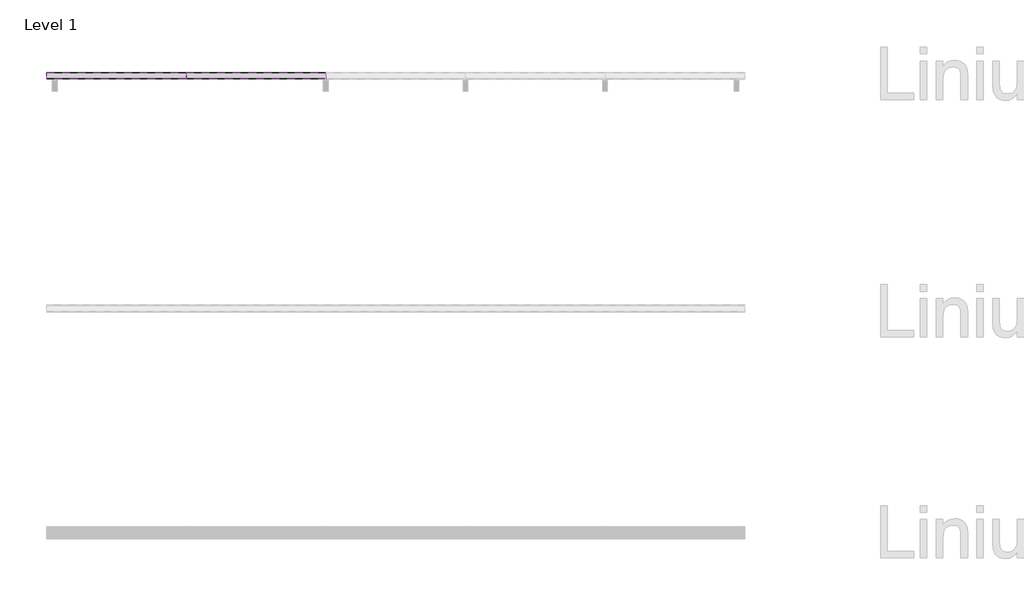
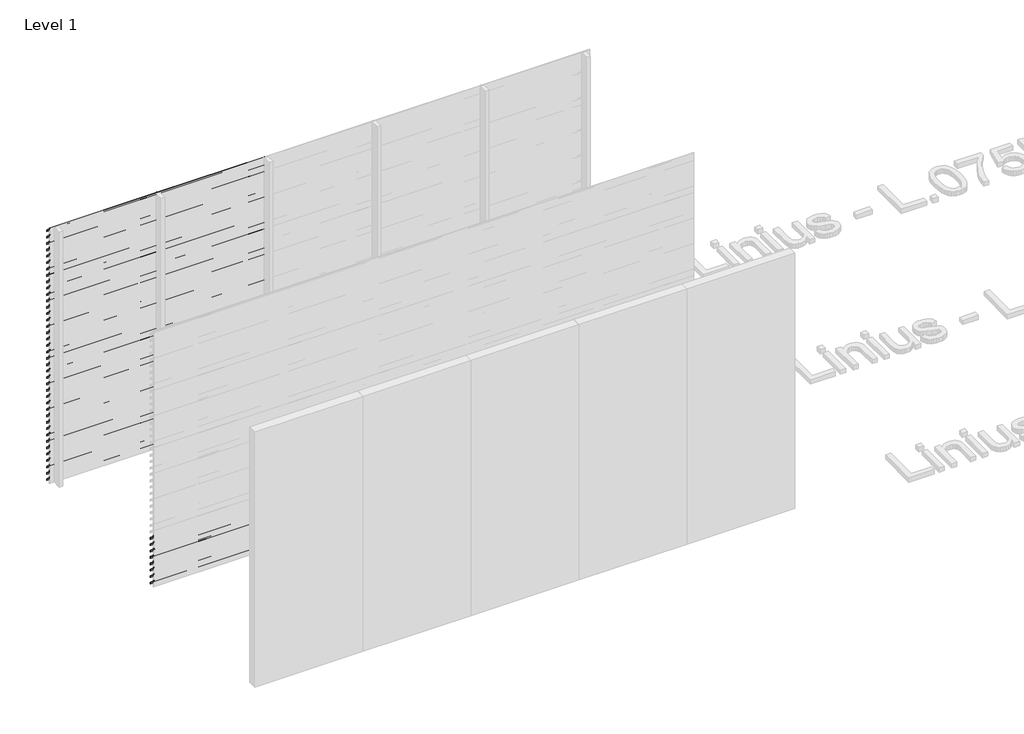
# One storey, part 21 of 55: 85 proxies.
"""IFC4 building model written with IfcOpenShell, lengths in millimetres."""

from ifc_helpers import new_model, si_unit, frame, origin, place, context, project, spatial, polyline, outline, extrude, element, save

model = new_model("IFC4")

# Units and contexts
model_context = context("Model", 3, world=origin())
ifc_project = project(units=[si_unit("LENGTHUNIT", "METRE", prefix="MILLI")], contexts=[model_context])

# Site, building, storey
site = spatial("IfcSite", under=ifc_project)
building = spatial("IfcBuilding", under=site)
storey = spatial("IfcBuildingStorey", under=building, Name="Level 1", Elevation=0.0)

# Proxies
placement = place(None, origin())
element("IfcBuildingElementProxy", 1, Name="Wall Sweeps", at=placement, inside=storey, context=model_context, shape_type="SweptSolid", body=[
    extrude(outline(polyline([(29081.0540136, 2943.5), (29081.0540136, 2923.5), (29079.8040136, 2924.2216933), (29079.8040136, 2942.7872415), (29026.0540136, 2980.3158044), (29026.0540136, 3000.0), (29027.3040136, 3000.0), (29027.3040136, 2981.0285629), (29081.0540136, 2943.5)])), frame((466.6208097, 0.0, 0.0), z_axis=(1.0, 0.0, 0.0), x_axis=(0.0, 1.0, 0.0)), (0.0, 0.0, 1.0), 1200.0000002),
])
element("IfcBuildingElementProxy", 2, Name="Wall Sweeps", at=placement, inside=storey, context=model_context, shape_type="SweptSolid", body=[
    extrude(outline(polyline([(29081.0540136, 2868.5), (29081.0540136, 2848.5), (29079.8040136, 2849.2216933), (29079.8040136, 2867.7872415), (29026.0540136, 2905.3158044), (29026.0540136, 2925.0), (29027.3040136, 2925.0), (29027.3040136, 2906.0285629), (29081.0540136, 2868.5)])), frame((466.6208097, 0.0, 0.0), z_axis=(1.0, 0.0, 0.0), x_axis=(0.0, 1.0, 0.0)), (0.0, 0.0, 1.0), 1200.0000002),
])
element("IfcBuildingElementProxy", 3, Name="Wall Sweeps", at=placement, inside=storey, context=model_context, shape_type="SweptSolid", body=[
    extrude(outline(polyline([(29081.0540136, 2793.5), (29081.0540136, 2773.5), (29079.8040136, 2774.2216933), (29079.8040136, 2792.7872415), (29026.0540136, 2830.3158044), (29026.0540136, 2850.0), (29027.3040136, 2850.0), (29027.3040136, 2831.0285629), (29081.0540136, 2793.5)])), frame((466.6208097, 0.0, 0.0), z_axis=(1.0, 0.0, 0.0), x_axis=(0.0, 1.0, 0.0)), (0.0, 0.0, 1.0), 1200.0000002),
])
element("IfcBuildingElementProxy", 4, Name="Wall Sweeps", at=placement, inside=storey, context=model_context, shape_type="SweptSolid", body=[
    extrude(outline(polyline([(29081.0540136, 2718.5), (29081.0540136, 2698.5), (29079.8040136, 2699.2216933), (29079.8040136, 2717.7872415), (29026.0540136, 2755.3158044), (29026.0540136, 2775.0), (29027.3040136, 2775.0), (29027.3040136, 2756.0285629), (29081.0540136, 2718.5)])), frame((466.6208097, 0.0, 0.0), z_axis=(1.0, 0.0, 0.0), x_axis=(0.0, 1.0, 0.0)), (0.0, 0.0, 1.0), 1200.0000002),
])
element("IfcBuildingElementProxy", 5, Name="Wall Sweeps", at=placement, inside=storey, context=model_context, shape_type="SweptSolid", body=[
    extrude(outline(polyline([(29081.0540136, 2643.5), (29081.0540136, 2623.5), (29079.8040136, 2624.2216933), (29079.8040136, 2642.7872415), (29026.0540136, 2680.3158044), (29026.0540136, 2700.0), (29027.3040136, 2700.0), (29027.3040136, 2681.0285629), (29081.0540136, 2643.5)])), frame((466.6208097, 0.0, 0.0), z_axis=(1.0, 0.0, 0.0), x_axis=(0.0, 1.0, 0.0)), (0.0, 0.0, 1.0), 1200.0000002),
])
element("IfcBuildingElementProxy", 6, Name="Wall Sweeps", at=placement, inside=storey, context=model_context, shape_type="SweptSolid", body=[
    extrude(outline(polyline([(29081.0540136, 2568.5), (29081.0540136, 2548.5), (29079.8040136, 2549.2216933), (29079.8040136, 2567.7872415), (29026.0540136, 2605.3158044), (29026.0540136, 2625.0), (29027.3040136, 2625.0), (29027.3040136, 2606.0285629), (29081.0540136, 2568.5)])), frame((466.6208097, 0.0, 0.0), z_axis=(1.0, 0.0, 0.0), x_axis=(0.0, 1.0, 0.0)), (0.0, 0.0, 1.0), 1200.0000002),
])
element("IfcBuildingElementProxy", 7, Name="Wall Sweeps", at=placement, inside=storey, context=model_context, shape_type="SweptSolid", body=[
    extrude(outline(polyline([(29081.0540136, 2493.5), (29081.0540136, 2473.5), (29079.8040136, 2474.2216933), (29079.8040136, 2492.7872415), (29026.0540136, 2530.3158044), (29026.0540136, 2550.0), (29027.3040136, 2550.0), (29027.3040136, 2531.0285629), (29081.0540136, 2493.5)])), frame((466.6208097, 0.0, 0.0), z_axis=(1.0, 0.0, 0.0), x_axis=(0.0, 1.0, 0.0)), (0.0, 0.0, 1.0), 1200.0000002),
])
element("IfcBuildingElementProxy", 8, Name="Wall Sweeps", at=placement, inside=storey, context=model_context, shape_type="SweptSolid", body=[
    extrude(outline(polyline([(29081.0540136, 2418.5), (29081.0540136, 2398.5), (29079.8040136, 2399.2216933), (29079.8040136, 2417.7872415), (29026.0540136, 2455.3158044), (29026.0540136, 2475.0), (29027.3040136, 2475.0), (29027.3040136, 2456.0285629), (29081.0540136, 2418.5)])), frame((466.6208097, 0.0, 0.0), z_axis=(1.0, 0.0, 0.0), x_axis=(0.0, 1.0, 0.0)), (0.0, 0.0, 1.0), 1200.0000002),
])
element("IfcBuildingElementProxy", 9, Name="Wall Sweeps", at=placement, inside=storey, context=model_context, shape_type="SweptSolid", body=[
    extrude(outline(polyline([(29081.0540136, 2343.5), (29081.0540136, 2323.5), (29079.8040136, 2324.2216933), (29079.8040136, 2342.7872415), (29026.0540136, 2380.3158044), (29026.0540136, 2400.0), (29027.3040136, 2400.0), (29027.3040136, 2381.0285629), (29081.0540136, 2343.5)])), frame((466.6208097, 0.0, 0.0), z_axis=(1.0, 0.0, 0.0), x_axis=(0.0, 1.0, 0.0)), (0.0, 0.0, 1.0), 1200.0000002),
])
element("IfcBuildingElementProxy", 10, Name="Wall Sweeps", at=placement, inside=storey, context=model_context, shape_type="SweptSolid", body=[
    extrude(outline(polyline([(29081.0540136, 2268.5), (29081.0540136, 2248.5), (29079.8040136, 2249.2216933), (29079.8040136, 2267.7872415), (29026.0540136, 2305.3158044), (29026.0540136, 2325.0), (29027.3040136, 2325.0), (29027.3040136, 2306.0285629), (29081.0540136, 2268.5)])), frame((466.6208097, 0.0, 0.0), z_axis=(1.0, 0.0, 0.0), x_axis=(0.0, 1.0, 0.0)), (0.0, 0.0, 1.0), 1200.0000002),
])
element("IfcBuildingElementProxy", 11, Name="Wall Sweeps", at=placement, inside=storey, context=model_context, shape_type="SweptSolid", body=[
    extrude(outline(polyline([(29081.0540136, 2193.5), (29081.0540136, 2173.5), (29079.8040136, 2174.2216933), (29079.8040136, 2192.7872415), (29026.0540136, 2230.3158044), (29026.0540136, 2250.0), (29027.3040136, 2250.0), (29027.3040136, 2231.0285629), (29081.0540136, 2193.5)])), frame((466.6208097, 0.0, 0.0), z_axis=(1.0, 0.0, 0.0), x_axis=(0.0, 1.0, 0.0)), (0.0, 0.0, 1.0), 1200.0000002),
])
element("IfcBuildingElementProxy", 12, Name="Wall Sweeps", at=placement, inside=storey, context=model_context, shape_type="SweptSolid", body=[
    extrude(outline(polyline([(29081.0540136, 2118.5), (29081.0540136, 2098.5), (29079.8040136, 2099.2216933), (29079.8040136, 2117.7872415), (29026.0540136, 2155.3158044), (29026.0540136, 2175.0), (29027.3040136, 2175.0), (29027.3040136, 2156.0285629), (29081.0540136, 2118.5)])), frame((466.6208097, 0.0, 0.0), z_axis=(1.0, 0.0, 0.0), x_axis=(0.0, 1.0, 0.0)), (0.0, 0.0, 1.0), 1200.0000002),
])
element("IfcBuildingElementProxy", 13, Name="Wall Sweeps", at=placement, inside=storey, context=model_context, shape_type="SweptSolid", body=[
    extrude(outline(polyline([(29081.0540136, 2043.5), (29081.0540136, 2023.5), (29079.8040136, 2024.2216933), (29079.8040136, 2042.7872415), (29026.0540136, 2080.3158044), (29026.0540136, 2100.0), (29027.3040136, 2100.0), (29027.3040136, 2081.0285629), (29081.0540136, 2043.5)])), frame((466.6208097, 0.0, 0.0), z_axis=(1.0, 0.0, 0.0), x_axis=(0.0, 1.0, 0.0)), (0.0, 0.0, 1.0), 1200.0000002),
])
element("IfcBuildingElementProxy", 14, Name="Wall Sweeps", at=placement, inside=storey, context=model_context, shape_type="SweptSolid", body=[
    extrude(outline(polyline([(29081.0540136, 1968.5), (29081.0540136, 1948.5), (29079.8040136, 1949.2216933), (29079.8040136, 1967.7872415), (29026.0540136, 2005.3158044), (29026.0540136, 2025.0), (29027.3040136, 2025.0), (29027.3040136, 2006.0285629), (29081.0540136, 1968.5)])), frame((466.6208097, 0.0, 0.0), z_axis=(1.0, 0.0, 0.0), x_axis=(0.0, 1.0, 0.0)), (0.0, 0.0, 1.0), 1200.0000002),
])
element("IfcBuildingElementProxy", 15, Name="Wall Sweeps", at=placement, inside=storey, context=model_context, shape_type="SweptSolid", body=[
    extrude(outline(polyline([(29081.0540136, 1893.5), (29081.0540136, 1873.5), (29079.8040136, 1874.2216933), (29079.8040136, 1892.7872415), (29026.0540136, 1930.3158044), (29026.0540136, 1950.0), (29027.3040136, 1950.0), (29027.3040136, 1931.0285629), (29081.0540136, 1893.5)])), frame((466.6208097, 0.0, 0.0), z_axis=(1.0, 0.0, 0.0), x_axis=(0.0, 1.0, 0.0)), (0.0, 0.0, 1.0), 1200.0000002),
])
element("IfcBuildingElementProxy", 16, Name="Wall Sweeps", at=placement, inside=storey, context=model_context, shape_type="SweptSolid", body=[
    extrude(outline(polyline([(29081.0540136, 1818.5), (29081.0540136, 1798.5), (29079.8040136, 1799.2216933), (29079.8040136, 1817.7872415), (29026.0540136, 1855.3158044), (29026.0540136, 1875.0), (29027.3040136, 1875.0), (29027.3040136, 1856.0285629), (29081.0540136, 1818.5)])), frame((466.6208097, 0.0, 0.0), z_axis=(1.0, 0.0, 0.0), x_axis=(0.0, 1.0, 0.0)), (0.0, 0.0, 1.0), 1200.0000002),
])
element("IfcBuildingElementProxy", 17, Name="Wall Sweeps", at=placement, inside=storey, context=model_context, shape_type="SweptSolid", body=[
    extrude(outline(polyline([(29081.0540136, 1743.5), (29081.0540136, 1723.5), (29079.8040136, 1724.2216933), (29079.8040136, 1742.7872415), (29026.0540136, 1780.3158044), (29026.0540136, 1800.0), (29027.3040136, 1800.0), (29027.3040136, 1781.0285629), (29081.0540136, 1743.5)])), frame((466.6208097, 0.0, 0.0), z_axis=(1.0, 0.0, 0.0), x_axis=(0.0, 1.0, 0.0)), (0.0, 0.0, 1.0), 1200.0000002),
])
element("IfcBuildingElementProxy", 18, Name="Wall Sweeps", at=placement, inside=storey, context=model_context, shape_type="SweptSolid", body=[
    extrude(outline(polyline([(29081.0540136, 1668.5), (29081.0540136, 1648.5), (29079.8040136, 1649.2216933), (29079.8040136, 1667.7872415), (29026.0540136, 1705.3158044), (29026.0540136, 1725.0), (29027.3040136, 1725.0), (29027.3040136, 1706.0285629), (29081.0540136, 1668.5)])), frame((466.6208097, 0.0, 0.0), z_axis=(1.0, 0.0, 0.0), x_axis=(0.0, 1.0, 0.0)), (0.0, 0.0, 1.0), 1200.0000002),
])
element("IfcBuildingElementProxy", 19, Name="Wall Sweeps", at=placement, inside=storey, context=model_context, shape_type="SweptSolid", body=[
    extrude(outline(polyline([(29081.0540136, 1593.5), (29081.0540136, 1573.5), (29079.8040136, 1574.2216933), (29079.8040136, 1592.7872415), (29026.0540136, 1630.3158044), (29026.0540136, 1650.0), (29027.3040136, 1650.0), (29027.3040136, 1631.0285629), (29081.0540136, 1593.5)])), frame((466.6208097, 0.0, 0.0), z_axis=(1.0, 0.0, 0.0), x_axis=(0.0, 1.0, 0.0)), (0.0, 0.0, 1.0), 1200.0000002),
])
element("IfcBuildingElementProxy", 20, Name="Wall Sweeps", at=placement, inside=storey, context=model_context, shape_type="SweptSolid", body=[
    extrude(outline(polyline([(29081.0540136, 1518.5), (29081.0540136, 1498.5), (29079.8040136, 1499.2216933), (29079.8040136, 1517.7872415), (29026.0540136, 1555.3158044), (29026.0540136, 1575.0), (29027.3040136, 1575.0), (29027.3040136, 1556.0285629), (29081.0540136, 1518.5)])), frame((466.6208097, 0.0, 0.0), z_axis=(1.0, 0.0, 0.0), x_axis=(0.0, 1.0, 0.0)), (0.0, 0.0, 1.0), 1200.0000002),
])
element("IfcBuildingElementProxy", 21, Name="Wall Sweeps", at=placement, inside=storey, context=model_context, shape_type="SweptSolid", body=[
    extrude(outline(polyline([(29081.0540136, 1443.5), (29081.0540136, 1423.5), (29079.8040136, 1424.2216933), (29079.8040136, 1442.7872415), (29026.0540136, 1480.3158044), (29026.0540136, 1500.0), (29027.3040136, 1500.0), (29027.3040136, 1481.0285629), (29081.0540136, 1443.5)])), frame((466.6208097, 0.0, 0.0), z_axis=(1.0, 0.0, 0.0), x_axis=(0.0, 1.0, 0.0)), (0.0, 0.0, 1.0), 1200.0000002),
])
element("IfcBuildingElementProxy", 22, Name="Wall Sweeps", at=placement, inside=storey, context=model_context, shape_type="SweptSolid", body=[
    extrude(outline(polyline([(29081.0540136, 1368.5), (29081.0540136, 1348.5), (29079.8040136, 1349.2216933), (29079.8040136, 1367.7872415), (29026.0540136, 1405.3158044), (29026.0540136, 1425.0), (29027.3040136, 1425.0), (29027.3040136, 1406.0285629), (29081.0540136, 1368.5)])), frame((466.6208097, 0.0, 0.0), z_axis=(1.0, 0.0, 0.0), x_axis=(0.0, 1.0, 0.0)), (0.0, 0.0, 1.0), 1200.0000002),
])
element("IfcBuildingElementProxy", 23, Name="Wall Sweeps", at=placement, inside=storey, context=model_context, shape_type="SweptSolid", body=[
    extrude(outline(polyline([(29081.0540136, 1293.5), (29081.0540136, 1273.5), (29079.8040136, 1274.2216933), (29079.8040136, 1292.7872415), (29026.0540136, 1330.3158044), (29026.0540136, 1350.0), (29027.3040136, 1350.0), (29027.3040136, 1331.0285629), (29081.0540136, 1293.5)])), frame((466.6208097, 0.0, 0.0), z_axis=(1.0, 0.0, 0.0), x_axis=(0.0, 1.0, 0.0)), (0.0, 0.0, 1.0), 1200.0000002),
])
element("IfcBuildingElementProxy", 24, Name="Wall Sweeps", at=placement, inside=storey, context=model_context, shape_type="SweptSolid", body=[
    extrude(outline(polyline([(29081.0540136, 1218.5), (29081.0540136, 1198.5), (29079.8040136, 1199.2216933), (29079.8040136, 1217.7872415), (29026.0540136, 1255.3158044), (29026.0540136, 1275.0), (29027.3040136, 1275.0), (29027.3040136, 1256.0285629), (29081.0540136, 1218.5)])), frame((466.6208097, 0.0, 0.0), z_axis=(1.0, 0.0, 0.0), x_axis=(0.0, 1.0, 0.0)), (0.0, 0.0, 1.0), 1200.0000002),
])
element("IfcBuildingElementProxy", 25, Name="Wall Sweeps", at=placement, inside=storey, context=model_context, shape_type="SweptSolid", body=[
    extrude(outline(polyline([(29081.0540136, 1143.5), (29081.0540136, 1123.5), (29079.8040136, 1124.2216933), (29079.8040136, 1142.7872415), (29026.0540136, 1180.3158044), (29026.0540136, 1200.0), (29027.3040136, 1200.0), (29027.3040136, 1181.0285629), (29081.0540136, 1143.5)])), frame((466.6208097, 0.0, 0.0), z_axis=(1.0, 0.0, 0.0), x_axis=(0.0, 1.0, 0.0)), (0.0, 0.0, 1.0), 1200.0000002),
])
element("IfcBuildingElementProxy", 26, Name="Wall Sweeps", at=placement, inside=storey, context=model_context, shape_type="SweptSolid", body=[
    extrude(outline(polyline([(29081.0540136, 1068.5), (29081.0540136, 1048.5), (29079.8040136, 1049.2216933), (29079.8040136, 1067.7872415), (29026.0540136, 1105.3158044), (29026.0540136, 1125.0), (29027.3040136, 1125.0), (29027.3040136, 1106.0285629), (29081.0540136, 1068.5)])), frame((466.6208097, 0.0, 0.0), z_axis=(1.0, 0.0, 0.0), x_axis=(0.0, 1.0, 0.0)), (0.0, 0.0, 1.0), 1200.0000002),
])
element("IfcBuildingElementProxy", 27, Name="Wall Sweeps", at=placement, inside=storey, context=model_context, shape_type="SweptSolid", body=[
    extrude(outline(polyline([(29081.0540136, 993.5), (29081.0540136, 973.5), (29079.8040136, 974.2216933), (29079.8040136, 992.7872415), (29026.0540136, 1030.3158044), (29026.0540136, 1050.0), (29027.3040136, 1050.0), (29027.3040136, 1031.0285629), (29081.0540136, 993.5)])), frame((466.6208097, 0.0, 0.0), z_axis=(1.0, 0.0, 0.0), x_axis=(0.0, 1.0, 0.0)), (0.0, 0.0, 1.0), 1200.0000002),
])
element("IfcBuildingElementProxy", 28, Name="Wall Sweeps", at=placement, inside=storey, context=model_context, shape_type="SweptSolid", body=[
    extrude(outline(polyline([(29081.0540136, 918.5), (29081.0540136, 898.5), (29079.8040136, 899.2216933), (29079.8040136, 917.7872415), (29026.0540136, 955.3158044), (29026.0540136, 975.0), (29027.3040136, 975.0), (29027.3040136, 956.0285629), (29081.0540136, 918.5)])), frame((466.6208097, 0.0, 0.0), z_axis=(1.0, 0.0, 0.0), x_axis=(0.0, 1.0, 0.0)), (0.0, 0.0, 1.0), 1200.0000002),
])
element("IfcBuildingElementProxy", 29, Name="Wall Sweeps", at=placement, inside=storey, context=model_context, shape_type="SweptSolid", body=[
    extrude(outline(polyline([(29081.0540136, 843.5), (29081.0540136, 823.5), (29079.8040136, 824.2216933), (29079.8040136, 842.7872415), (29026.0540136, 880.3158044), (29026.0540136, 900.0), (29027.3040136, 900.0), (29027.3040136, 881.0285629), (29081.0540136, 843.5)])), frame((466.6208097, 0.0, 0.0), z_axis=(1.0, 0.0, 0.0), x_axis=(0.0, 1.0, 0.0)), (0.0, 0.0, 1.0), 1200.0000002),
])
element("IfcBuildingElementProxy", 30, Name="Wall Sweeps", at=placement, inside=storey, context=model_context, shape_type="SweptSolid", body=[
    extrude(outline(polyline([(29081.0540136, 768.5), (29081.0540136, 748.5), (29079.8040136, 749.2216933), (29079.8040136, 767.7872415), (29026.0540136, 805.3158044), (29026.0540136, 825.0), (29027.3040136, 825.0), (29027.3040136, 806.0285629), (29081.0540136, 768.5)])), frame((466.6208097, 0.0, 0.0), z_axis=(1.0, 0.0, 0.0), x_axis=(0.0, 1.0, 0.0)), (0.0, 0.0, 1.0), 1200.0000002),
])
element("IfcBuildingElementProxy", 31, Name="Wall Sweeps", at=placement, inside=storey, context=model_context, shape_type="SweptSolid", body=[
    extrude(outline(polyline([(29081.0540136, 693.5), (29081.0540136, 673.5), (29079.8040136, 674.2216933), (29079.8040136, 692.7872415), (29026.0540136, 730.3158044), (29026.0540136, 750.0), (29027.3040136, 750.0), (29027.3040136, 731.0285629), (29081.0540136, 693.5)])), frame((466.6208097, 0.0, 0.0), z_axis=(1.0, 0.0, 0.0), x_axis=(0.0, 1.0, 0.0)), (0.0, 0.0, 1.0), 1200.0000002),
])
element("IfcBuildingElementProxy", 32, Name="Wall Sweeps", at=placement, inside=storey, context=model_context, shape_type="SweptSolid", body=[
    extrude(outline(polyline([(29081.0540136, 618.5), (29081.0540136, 598.5), (29079.8040136, 599.2216933), (29079.8040136, 617.7872415), (29026.0540136, 655.3158044), (29026.0540136, 675.0), (29027.3040136, 675.0), (29027.3040136, 656.0285629), (29081.0540136, 618.5)])), frame((466.6208097, 0.0, 0.0), z_axis=(1.0, 0.0, 0.0), x_axis=(0.0, 1.0, 0.0)), (0.0, 0.0, 1.0), 1200.0000002),
])
element("IfcBuildingElementProxy", 33, Name="Wall Sweeps", at=placement, inside=storey, context=model_context, shape_type="SweptSolid", body=[
    extrude(outline(polyline([(29081.0540136, 543.5), (29081.0540136, 523.5), (29079.8040136, 524.2216933), (29079.8040136, 542.7872415), (29026.0540136, 580.3158044), (29026.0540136, 600.0), (29027.3040136, 600.0), (29027.3040136, 581.0285629), (29081.0540136, 543.5)])), frame((466.6208097, 0.0, 0.0), z_axis=(1.0, 0.0, 0.0), x_axis=(0.0, 1.0, 0.0)), (0.0, 0.0, 1.0), 1200.0000002),
])
element("IfcBuildingElementProxy", 34, Name="Wall Sweeps", at=placement, inside=storey, context=model_context, shape_type="SweptSolid", body=[
    extrude(outline(polyline([(29081.0540136, 468.5), (29081.0540136, 448.5), (29079.8040136, 449.2216933), (29079.8040136, 467.7872415), (29026.0540136, 505.3158044), (29026.0540136, 525.0), (29027.3040136, 525.0), (29027.3040136, 506.0285629), (29081.0540136, 468.5)])), frame((466.6208097, 0.0, 0.0), z_axis=(1.0, 0.0, 0.0), x_axis=(0.0, 1.0, 0.0)), (0.0, 0.0, 1.0), 1200.0000002),
])
element("IfcBuildingElementProxy", 35, Name="Wall Sweeps", at=placement, inside=storey, context=model_context, shape_type="SweptSolid", body=[
    extrude(outline(polyline([(29081.0540136, 393.5), (29081.0540136, 373.5), (29079.8040136, 374.2216933), (29079.8040136, 392.7872415), (29026.0540136, 430.3158044), (29026.0540136, 450.0), (29027.3040136, 450.0), (29027.3040136, 431.0285629), (29081.0540136, 393.5)])), frame((466.6208097, 0.0, 0.0), z_axis=(1.0, 0.0, 0.0), x_axis=(0.0, 1.0, 0.0)), (0.0, 0.0, 1.0), 1200.0000002),
])
element("IfcBuildingElementProxy", 36, Name="Wall Sweeps", at=placement, inside=storey, context=model_context, shape_type="SweptSolid", body=[
    extrude(outline(polyline([(29081.0540136, 318.5), (29081.0540136, 298.5), (29079.8040136, 299.2216933), (29079.8040136, 317.7872415), (29026.0540136, 355.3158044), (29026.0540136, 375.0), (29027.3040136, 375.0), (29027.3040136, 356.0285629), (29081.0540136, 318.5)])), frame((466.6208097, 0.0, 0.0), z_axis=(1.0, 0.0, 0.0), x_axis=(0.0, 1.0, 0.0)), (0.0, 0.0, 1.0), 1200.0000002),
])
element("IfcBuildingElementProxy", 37, Name="Wall Sweeps", at=placement, inside=storey, context=model_context, shape_type="SweptSolid", body=[
    extrude(outline(polyline([(29081.0540136, 243.5), (29081.0540136, 223.5), (29079.8040136, 224.2216933), (29079.8040136, 242.7872415), (29026.0540136, 280.3158044), (29026.0540136, 300.0), (29027.3040136, 300.0), (29027.3040136, 281.0285629), (29081.0540136, 243.5)])), frame((466.6208097, 0.0, 0.0), z_axis=(1.0, 0.0, 0.0), x_axis=(0.0, 1.0, 0.0)), (0.0, 0.0, 1.0), 1200.0000002),
])
element("IfcBuildingElementProxy", 38, Name="Wall Sweeps", at=placement, inside=storey, context=model_context, shape_type="SweptSolid", body=[
    extrude(outline(polyline([(29081.0540136, 168.5), (29081.0540136, 148.5), (29079.8040136, 149.2216933), (29079.8040136, 167.7872415), (29026.0540136, 205.3158044), (29026.0540136, 225.0), (29027.3040136, 225.0), (29027.3040136, 206.0285629), (29081.0540136, 168.5)])), frame((466.6208097, 0.0, 0.0), z_axis=(1.0, 0.0, 0.0), x_axis=(0.0, 1.0, 0.0)), (0.0, 0.0, 1.0), 1200.0000002),
])
element("IfcBuildingElementProxy", 39, Name="Wall Sweeps", at=placement, inside=storey, context=model_context, shape_type="SweptSolid", body=[
    extrude(outline(polyline([(29081.0540136, 93.5), (29081.0540136, 73.5), (29079.8040136, 74.2216933), (29079.8040136, 92.7872415), (29026.0540136, 130.3158044), (29026.0540136, 150.0), (29027.3040136, 150.0), (29027.3040136, 131.0285629), (29081.0540136, 93.5)])), frame((466.6208097, 0.0, 0.0), z_axis=(1.0, 0.0, 0.0), x_axis=(0.0, 1.0, 0.0)), (0.0, 0.0, 1.0), 1200.0000002),
])
element("IfcBuildingElementProxy", 40, Name="Wall Sweeps", at=placement, inside=storey, context=model_context, shape_type="SweptSolid", body=[
    extrude(outline(polyline([(29081.0540136, 18.5), (29081.0540136, -1.5), (29079.8040136, -0.7783067), (29079.8040136, 17.7872415), (29026.0540136, 55.3158044), (29026.0540136, 75.0), (29027.3040136, 75.0), (29027.3040136, 56.0285629), (29081.0540136, 18.5)])), frame((466.6208097, 0.0, 0.0), z_axis=(1.0, 0.0, 0.0), x_axis=(0.0, 1.0, 0.0)), (0.0, 0.0, 1.0), 1200.0000002),
])
element("IfcBuildingElementProxy", 41, Name="Wall Sweeps", at=placement, inside=storey, context=model_context, shape_type="SweptSolid", body=[
    extrude(outline(polyline([(29081.0540136, 2943.5), (29081.0540136, 2923.5), (29079.8040136, 2924.2216933), (29079.8040136, 2942.7872415), (29026.0540136, 2980.3158044), (29026.0540136, 3000.0), (29027.3040136, 3000.0), (29027.3040136, 2981.0285629), (29081.0540136, 2943.5)])), frame((1666.6208099, 0.0, 0.0), z_axis=(1.0, 0.0, 0.0), x_axis=(0.0, 1.0, 0.0)), (0.0, 0.0, 1.0), 1199.9999999),
])
element("IfcBuildingElementProxy", 42, Name="Wall Sweeps", at=placement, inside=storey, context=model_context, shape_type="SweptSolid", body=[
    extrude(outline(polyline([(29081.0540136, 2868.5), (29081.0540136, 2848.5), (29079.8040136, 2849.2216933), (29079.8040136, 2867.7872415), (29026.0540136, 2905.3158044), (29026.0540136, 2925.0), (29027.3040136, 2925.0), (29027.3040136, 2906.0285629), (29081.0540136, 2868.5)])), frame((1666.6208099, 0.0, 0.0), z_axis=(1.0, 0.0, 0.0), x_axis=(0.0, 1.0, 0.0)), (0.0, 0.0, 1.0), 1199.9999999),
])
element("IfcBuildingElementProxy", 43, Name="Wall Sweeps", at=placement, inside=storey, context=model_context, shape_type="SweptSolid", body=[
    extrude(outline(polyline([(29081.0540136, 2793.5), (29081.0540136, 2773.5), (29079.8040136, 2774.2216933), (29079.8040136, 2792.7872415), (29026.0540136, 2830.3158044), (29026.0540136, 2850.0), (29027.3040136, 2850.0), (29027.3040136, 2831.0285629), (29081.0540136, 2793.5)])), frame((1666.6208099, 0.0, 0.0), z_axis=(1.0, 0.0, 0.0), x_axis=(0.0, 1.0, 0.0)), (0.0, 0.0, 1.0), 1199.9999999),
])
element("IfcBuildingElementProxy", 44, Name="Wall Sweeps", at=placement, inside=storey, context=model_context, shape_type="SweptSolid", body=[
    extrude(outline(polyline([(29081.0540136, 2718.5), (29081.0540136, 2698.5), (29079.8040136, 2699.2216933), (29079.8040136, 2717.7872415), (29026.0540136, 2755.3158044), (29026.0540136, 2775.0), (29027.3040136, 2775.0), (29027.3040136, 2756.0285629), (29081.0540136, 2718.5)])), frame((1666.6208099, 0.0, 0.0), z_axis=(1.0, 0.0, 0.0), x_axis=(0.0, 1.0, 0.0)), (0.0, 0.0, 1.0), 1199.9999999),
])
element("IfcBuildingElementProxy", 45, Name="Wall Sweeps", at=placement, inside=storey, context=model_context, shape_type="SweptSolid", body=[
    extrude(outline(polyline([(29081.0540136, 2643.5), (29081.0540136, 2623.5), (29079.8040136, 2624.2216933), (29079.8040136, 2642.7872415), (29026.0540136, 2680.3158044), (29026.0540136, 2700.0), (29027.3040136, 2700.0), (29027.3040136, 2681.0285629), (29081.0540136, 2643.5)])), frame((1666.6208099, 0.0, 0.0), z_axis=(1.0, 0.0, 0.0), x_axis=(0.0, 1.0, 0.0)), (0.0, 0.0, 1.0), 1199.9999999),
])
element("IfcBuildingElementProxy", 46, Name="Wall Sweeps", at=placement, inside=storey, context=model_context, shape_type="SweptSolid", body=[
    extrude(outline(polyline([(29081.0540136, 2568.5), (29081.0540136, 2548.5), (29079.8040136, 2549.2216933), (29079.8040136, 2567.7872415), (29026.0540136, 2605.3158044), (29026.0540136, 2625.0), (29027.3040136, 2625.0), (29027.3040136, 2606.0285629), (29081.0540136, 2568.5)])), frame((1666.6208099, 0.0, 0.0), z_axis=(1.0, 0.0, 0.0), x_axis=(0.0, 1.0, 0.0)), (0.0, 0.0, 1.0), 1199.9999999),
])
element("IfcBuildingElementProxy", 47, Name="Wall Sweeps", at=placement, inside=storey, context=model_context, shape_type="SweptSolid", body=[
    extrude(outline(polyline([(29081.0540136, 2493.5), (29081.0540136, 2473.5), (29079.8040136, 2474.2216933), (29079.8040136, 2492.7872415), (29026.0540136, 2530.3158044), (29026.0540136, 2550.0), (29027.3040136, 2550.0), (29027.3040136, 2531.0285629), (29081.0540136, 2493.5)])), frame((1666.6208099, 0.0, 0.0), z_axis=(1.0, 0.0, 0.0), x_axis=(0.0, 1.0, 0.0)), (0.0, 0.0, 1.0), 1199.9999999),
])
element("IfcBuildingElementProxy", 48, Name="Wall Sweeps", at=placement, inside=storey, context=model_context, shape_type="SweptSolid", body=[
    extrude(outline(polyline([(29081.0540136, 2418.5), (29081.0540136, 2398.5), (29079.8040136, 2399.2216933), (29079.8040136, 2417.7872415), (29026.0540136, 2455.3158044), (29026.0540136, 2475.0), (29027.3040136, 2475.0), (29027.3040136, 2456.0285629), (29081.0540136, 2418.5)])), frame((1666.6208099, 0.0, 0.0), z_axis=(1.0, 0.0, 0.0), x_axis=(0.0, 1.0, 0.0)), (0.0, 0.0, 1.0), 1199.9999999),
])
element("IfcBuildingElementProxy", 49, Name="Wall Sweeps", at=placement, inside=storey, context=model_context, shape_type="SweptSolid", body=[
    extrude(outline(polyline([(29081.0540136, 2343.5), (29081.0540136, 2323.5), (29079.8040136, 2324.2216933), (29079.8040136, 2342.7872415), (29026.0540136, 2380.3158044), (29026.0540136, 2400.0), (29027.3040136, 2400.0), (29027.3040136, 2381.0285629), (29081.0540136, 2343.5)])), frame((1666.6208099, 0.0, 0.0), z_axis=(1.0, 0.0, 0.0), x_axis=(0.0, 1.0, 0.0)), (0.0, 0.0, 1.0), 1199.9999999),
])
element("IfcBuildingElementProxy", 50, Name="Wall Sweeps", at=placement, inside=storey, context=model_context, shape_type="SweptSolid", body=[
    extrude(outline(polyline([(29081.0540136, 2268.5), (29081.0540136, 2248.5), (29079.8040136, 2249.2216933), (29079.8040136, 2267.7872415), (29026.0540136, 2305.3158044), (29026.0540136, 2325.0), (29027.3040136, 2325.0), (29027.3040136, 2306.0285629), (29081.0540136, 2268.5)])), frame((1666.6208099, 0.0, 0.0), z_axis=(1.0, 0.0, 0.0), x_axis=(0.0, 1.0, 0.0)), (0.0, 0.0, 1.0), 1199.9999999),
])
element("IfcBuildingElementProxy", 51, Name="Wall Sweeps", at=placement, inside=storey, context=model_context, shape_type="SweptSolid", body=[
    extrude(outline(polyline([(29081.0540136, 2193.5), (29081.0540136, 2173.5), (29079.8040136, 2174.2216933), (29079.8040136, 2192.7872415), (29026.0540136, 2230.3158044), (29026.0540136, 2250.0), (29027.3040136, 2250.0), (29027.3040136, 2231.0285629), (29081.0540136, 2193.5)])), frame((1666.6208099, 0.0, 0.0), z_axis=(1.0, 0.0, 0.0), x_axis=(0.0, 1.0, 0.0)), (0.0, 0.0, 1.0), 1199.9999999),
])
element("IfcBuildingElementProxy", 52, Name="Wall Sweeps", at=placement, inside=storey, context=model_context, shape_type="SweptSolid", body=[
    extrude(outline(polyline([(29081.0540136, 2118.5), (29081.0540136, 2098.5), (29079.8040136, 2099.2216933), (29079.8040136, 2117.7872415), (29026.0540136, 2155.3158044), (29026.0540136, 2175.0), (29027.3040136, 2175.0), (29027.3040136, 2156.0285629), (29081.0540136, 2118.5)])), frame((1666.6208099, 0.0, 0.0), z_axis=(1.0, 0.0, 0.0), x_axis=(0.0, 1.0, 0.0)), (0.0, 0.0, 1.0), 1199.9999999),
])
element("IfcBuildingElementProxy", 53, Name="Wall Sweeps", at=placement, inside=storey, context=model_context, shape_type="SweptSolid", body=[
    extrude(outline(polyline([(29081.0540136, 2043.5), (29081.0540136, 2023.5), (29079.8040136, 2024.2216933), (29079.8040136, 2042.7872415), (29026.0540136, 2080.3158044), (29026.0540136, 2100.0), (29027.3040136, 2100.0), (29027.3040136, 2081.0285629), (29081.0540136, 2043.5)])), frame((1666.6208099, 0.0, 0.0), z_axis=(1.0, 0.0, 0.0), x_axis=(0.0, 1.0, 0.0)), (0.0, 0.0, 1.0), 1199.9999999),
])
element("IfcBuildingElementProxy", 54, Name="Wall Sweeps", at=placement, inside=storey, context=model_context, shape_type="SweptSolid", body=[
    extrude(outline(polyline([(29081.0540136, 1968.5), (29081.0540136, 1948.5), (29079.8040136, 1949.2216933), (29079.8040136, 1967.7872415), (29026.0540136, 2005.3158044), (29026.0540136, 2025.0), (29027.3040136, 2025.0), (29027.3040136, 2006.0285629), (29081.0540136, 1968.5)])), frame((1666.6208099, 0.0, 0.0), z_axis=(1.0, 0.0, 0.0), x_axis=(0.0, 1.0, 0.0)), (0.0, 0.0, 1.0), 1199.9999999),
])
element("IfcBuildingElementProxy", 55, Name="Wall Sweeps", at=placement, inside=storey, context=model_context, shape_type="SweptSolid", body=[
    extrude(outline(polyline([(29081.0540136, 1893.5), (29081.0540136, 1873.5), (29079.8040136, 1874.2216933), (29079.8040136, 1892.7872415), (29026.0540136, 1930.3158044), (29026.0540136, 1950.0), (29027.3040136, 1950.0), (29027.3040136, 1931.0285629), (29081.0540136, 1893.5)])), frame((1666.6208099, 0.0, 0.0), z_axis=(1.0, 0.0, 0.0), x_axis=(0.0, 1.0, 0.0)), (0.0, 0.0, 1.0), 1199.9999999),
])
element("IfcBuildingElementProxy", 56, Name="Wall Sweeps", at=placement, inside=storey, context=model_context, shape_type="SweptSolid", body=[
    extrude(outline(polyline([(29081.0540136, 1818.5), (29081.0540136, 1798.5), (29079.8040136, 1799.2216933), (29079.8040136, 1817.7872415), (29026.0540136, 1855.3158044), (29026.0540136, 1875.0), (29027.3040136, 1875.0), (29027.3040136, 1856.0285629), (29081.0540136, 1818.5)])), frame((1666.6208099, 0.0, 0.0), z_axis=(1.0, 0.0, 0.0), x_axis=(0.0, 1.0, 0.0)), (0.0, 0.0, 1.0), 1199.9999999),
])
element("IfcBuildingElementProxy", 57, Name="Wall Sweeps", at=placement, inside=storey, context=model_context, shape_type="SweptSolid", body=[
    extrude(outline(polyline([(29081.0540136, 1743.5), (29081.0540136, 1723.5), (29079.8040136, 1724.2216933), (29079.8040136, 1742.7872415), (29026.0540136, 1780.3158044), (29026.0540136, 1800.0), (29027.3040136, 1800.0), (29027.3040136, 1781.0285629), (29081.0540136, 1743.5)])), frame((1666.6208099, 0.0, 0.0), z_axis=(1.0, 0.0, 0.0), x_axis=(0.0, 1.0, 0.0)), (0.0, 0.0, 1.0), 1199.9999999),
])
element("IfcBuildingElementProxy", 58, Name="Wall Sweeps", at=placement, inside=storey, context=model_context, shape_type="SweptSolid", body=[
    extrude(outline(polyline([(29081.0540136, 1668.5), (29081.0540136, 1648.5), (29079.8040136, 1649.2216933), (29079.8040136, 1667.7872415), (29026.0540136, 1705.3158044), (29026.0540136, 1725.0), (29027.3040136, 1725.0), (29027.3040136, 1706.0285629), (29081.0540136, 1668.5)])), frame((1666.6208099, 0.0, 0.0), z_axis=(1.0, 0.0, 0.0), x_axis=(0.0, 1.0, 0.0)), (0.0, 0.0, 1.0), 1199.9999999),
])
element("IfcBuildingElementProxy", 59, Name="Wall Sweeps", at=placement, inside=storey, context=model_context, shape_type="SweptSolid", body=[
    extrude(outline(polyline([(29081.0540136, 1593.5), (29081.0540136, 1573.5), (29079.8040136, 1574.2216933), (29079.8040136, 1592.7872415), (29026.0540136, 1630.3158044), (29026.0540136, 1650.0), (29027.3040136, 1650.0), (29027.3040136, 1631.0285629), (29081.0540136, 1593.5)])), frame((1666.6208099, 0.0, 0.0), z_axis=(1.0, 0.0, 0.0), x_axis=(0.0, 1.0, 0.0)), (0.0, 0.0, 1.0), 1199.9999999),
])
element("IfcBuildingElementProxy", 60, Name="Wall Sweeps", at=placement, inside=storey, context=model_context, shape_type="SweptSolid", body=[
    extrude(outline(polyline([(29081.0540136, 1518.5), (29081.0540136, 1498.5), (29079.8040136, 1499.2216933), (29079.8040136, 1517.7872415), (29026.0540136, 1555.3158044), (29026.0540136, 1575.0), (29027.3040136, 1575.0), (29027.3040136, 1556.0285629), (29081.0540136, 1518.5)])), frame((1666.6208099, 0.0, 0.0), z_axis=(1.0, 0.0, 0.0), x_axis=(0.0, 1.0, 0.0)), (0.0, 0.0, 1.0), 1199.9999999),
])
element("IfcBuildingElementProxy", 61, Name="Wall Sweeps", at=placement, inside=storey, context=model_context, shape_type="SweptSolid", body=[
    extrude(outline(polyline([(29081.0540136, 1443.5), (29081.0540136, 1423.5), (29079.8040136, 1424.2216933), (29079.8040136, 1442.7872415), (29026.0540136, 1480.3158044), (29026.0540136, 1500.0), (29027.3040136, 1500.0), (29027.3040136, 1481.0285629), (29081.0540136, 1443.5)])), frame((1666.6208099, 0.0, 0.0), z_axis=(1.0, 0.0, 0.0), x_axis=(0.0, 1.0, 0.0)), (0.0, 0.0, 1.0), 1199.9999999),
])
element("IfcBuildingElementProxy", 62, Name="Wall Sweeps", at=placement, inside=storey, context=model_context, shape_type="SweptSolid", body=[
    extrude(outline(polyline([(29081.0540136, 1368.5), (29081.0540136, 1348.5), (29079.8040136, 1349.2216933), (29079.8040136, 1367.7872415), (29026.0540136, 1405.3158044), (29026.0540136, 1425.0), (29027.3040136, 1425.0), (29027.3040136, 1406.0285629), (29081.0540136, 1368.5)])), frame((1666.6208099, 0.0, 0.0), z_axis=(1.0, 0.0, 0.0), x_axis=(0.0, 1.0, 0.0)), (0.0, 0.0, 1.0), 1199.9999999),
])
element("IfcBuildingElementProxy", 63, Name="Wall Sweeps", at=placement, inside=storey, context=model_context, shape_type="SweptSolid", body=[
    extrude(outline(polyline([(29081.0540136, 1293.5), (29081.0540136, 1273.5), (29079.8040136, 1274.2216933), (29079.8040136, 1292.7872415), (29026.0540136, 1330.3158044), (29026.0540136, 1350.0), (29027.3040136, 1350.0), (29027.3040136, 1331.0285629), (29081.0540136, 1293.5)])), frame((1666.6208099, 0.0, 0.0), z_axis=(1.0, 0.0, 0.0), x_axis=(0.0, 1.0, 0.0)), (0.0, 0.0, 1.0), 1199.9999999),
])
element("IfcBuildingElementProxy", 64, Name="Wall Sweeps", at=placement, inside=storey, context=model_context, shape_type="SweptSolid", body=[
    extrude(outline(polyline([(29081.0540136, 1218.5), (29081.0540136, 1198.5), (29079.8040136, 1199.2216933), (29079.8040136, 1217.7872415), (29026.0540136, 1255.3158044), (29026.0540136, 1275.0), (29027.3040136, 1275.0), (29027.3040136, 1256.0285629), (29081.0540136, 1218.5)])), frame((1666.6208099, 0.0, 0.0), z_axis=(1.0, 0.0, 0.0), x_axis=(0.0, 1.0, 0.0)), (0.0, 0.0, 1.0), 1199.9999999),
])
element("IfcBuildingElementProxy", 65, Name="Wall Sweeps", at=placement, inside=storey, context=model_context, shape_type="SweptSolid", body=[
    extrude(outline(polyline([(29081.0540136, 1143.5), (29081.0540136, 1123.5), (29079.8040136, 1124.2216933), (29079.8040136, 1142.7872415), (29026.0540136, 1180.3158044), (29026.0540136, 1200.0), (29027.3040136, 1200.0), (29027.3040136, 1181.0285629), (29081.0540136, 1143.5)])), frame((1666.6208099, 0.0, 0.0), z_axis=(1.0, 0.0, 0.0), x_axis=(0.0, 1.0, 0.0)), (0.0, 0.0, 1.0), 1199.9999999),
])
element("IfcBuildingElementProxy", 66, Name="Wall Sweeps", at=placement, inside=storey, context=model_context, shape_type="SweptSolid", body=[
    extrude(outline(polyline([(29081.0540136, 1068.5), (29081.0540136, 1048.5), (29079.8040136, 1049.2216933), (29079.8040136, 1067.7872415), (29026.0540136, 1105.3158044), (29026.0540136, 1125.0), (29027.3040136, 1125.0), (29027.3040136, 1106.0285629), (29081.0540136, 1068.5)])), frame((1666.6208099, 0.0, 0.0), z_axis=(1.0, 0.0, 0.0), x_axis=(0.0, 1.0, 0.0)), (0.0, 0.0, 1.0), 1199.9999999),
])
element("IfcBuildingElementProxy", 67, Name="Wall Sweeps", at=placement, inside=storey, context=model_context, shape_type="SweptSolid", body=[
    extrude(outline(polyline([(29081.0540136, 993.5), (29081.0540136, 973.5), (29079.8040136, 974.2216933), (29079.8040136, 992.7872415), (29026.0540136, 1030.3158044), (29026.0540136, 1050.0), (29027.3040136, 1050.0), (29027.3040136, 1031.0285629), (29081.0540136, 993.5)])), frame((1666.6208099, 0.0, 0.0), z_axis=(1.0, 0.0, 0.0), x_axis=(0.0, 1.0, 0.0)), (0.0, 0.0, 1.0), 1199.9999999),
])
element("IfcBuildingElementProxy", 68, Name="Wall Sweeps", at=placement, inside=storey, context=model_context, shape_type="SweptSolid", body=[
    extrude(outline(polyline([(29081.0540136, 918.5), (29081.0540136, 898.5), (29079.8040136, 899.2216933), (29079.8040136, 917.7872415), (29026.0540136, 955.3158044), (29026.0540136, 975.0), (29027.3040136, 975.0), (29027.3040136, 956.0285629), (29081.0540136, 918.5)])), frame((1666.6208099, 0.0, 0.0), z_axis=(1.0, 0.0, 0.0), x_axis=(0.0, 1.0, 0.0)), (0.0, 0.0, 1.0), 1199.9999999),
])
element("IfcBuildingElementProxy", 69, Name="Wall Sweeps", at=placement, inside=storey, context=model_context, shape_type="SweptSolid", body=[
    extrude(outline(polyline([(29081.0540136, 843.5), (29081.0540136, 823.5), (29079.8040136, 824.2216933), (29079.8040136, 842.7872415), (29026.0540136, 880.3158044), (29026.0540136, 900.0), (29027.3040136, 900.0), (29027.3040136, 881.0285629), (29081.0540136, 843.5)])), frame((1666.6208099, 0.0, 0.0), z_axis=(1.0, 0.0, 0.0), x_axis=(0.0, 1.0, 0.0)), (0.0, 0.0, 1.0), 1199.9999999),
])
element("IfcBuildingElementProxy", 70, Name="Wall Sweeps", at=placement, inside=storey, context=model_context, shape_type="SweptSolid", body=[
    extrude(outline(polyline([(29081.0540136, 768.5), (29081.0540136, 748.5), (29079.8040136, 749.2216933), (29079.8040136, 767.7872415), (29026.0540136, 805.3158044), (29026.0540136, 825.0), (29027.3040136, 825.0), (29027.3040136, 806.0285629), (29081.0540136, 768.5)])), frame((1666.6208099, 0.0, 0.0), z_axis=(1.0, 0.0, 0.0), x_axis=(0.0, 1.0, 0.0)), (0.0, 0.0, 1.0), 1199.9999999),
])
element("IfcBuildingElementProxy", 71, Name="Wall Sweeps", at=placement, inside=storey, context=model_context, shape_type="SweptSolid", body=[
    extrude(outline(polyline([(29081.0540136, 693.5), (29081.0540136, 673.5), (29079.8040136, 674.2216933), (29079.8040136, 692.7872415), (29026.0540136, 730.3158044), (29026.0540136, 750.0), (29027.3040136, 750.0), (29027.3040136, 731.0285629), (29081.0540136, 693.5)])), frame((1666.6208099, 0.0, 0.0), z_axis=(1.0, 0.0, 0.0), x_axis=(0.0, 1.0, 0.0)), (0.0, 0.0, 1.0), 1199.9999999),
])
element("IfcBuildingElementProxy", 72, Name="Wall Sweeps", at=placement, inside=storey, context=model_context, shape_type="SweptSolid", body=[
    extrude(outline(polyline([(29081.0540136, 618.5), (29081.0540136, 598.5), (29079.8040136, 599.2216933), (29079.8040136, 617.7872415), (29026.0540136, 655.3158044), (29026.0540136, 675.0), (29027.3040136, 675.0), (29027.3040136, 656.0285629), (29081.0540136, 618.5)])), frame((1666.6208099, 0.0, 0.0), z_axis=(1.0, 0.0, 0.0), x_axis=(0.0, 1.0, 0.0)), (0.0, 0.0, 1.0), 1199.9999999),
])
element("IfcBuildingElementProxy", 73, Name="Wall Sweeps", at=placement, inside=storey, context=model_context, shape_type="SweptSolid", body=[
    extrude(outline(polyline([(29081.0540136, 543.5), (29081.0540136, 523.5), (29079.8040136, 524.2216933), (29079.8040136, 542.7872415), (29026.0540136, 580.3158044), (29026.0540136, 600.0), (29027.3040136, 600.0), (29027.3040136, 581.0285629), (29081.0540136, 543.5)])), frame((1666.6208099, 0.0, 0.0), z_axis=(1.0, 0.0, 0.0), x_axis=(0.0, 1.0, 0.0)), (0.0, 0.0, 1.0), 1199.9999999),
])
element("IfcBuildingElementProxy", 74, Name="Wall Sweeps", at=placement, inside=storey, context=model_context, shape_type="SweptSolid", body=[
    extrude(outline(polyline([(29081.0540136, 468.5), (29081.0540136, 448.5), (29079.8040136, 449.2216933), (29079.8040136, 467.7872415), (29026.0540136, 505.3158044), (29026.0540136, 525.0), (29027.3040136, 525.0), (29027.3040136, 506.0285629), (29081.0540136, 468.5)])), frame((1666.6208099, 0.0, 0.0), z_axis=(1.0, 0.0, 0.0), x_axis=(0.0, 1.0, 0.0)), (0.0, 0.0, 1.0), 1199.9999999),
])
element("IfcBuildingElementProxy", 75, Name="Wall Sweeps", at=placement, inside=storey, context=model_context, shape_type="SweptSolid", body=[
    extrude(outline(polyline([(29081.0540136, 393.5), (29081.0540136, 373.5), (29079.8040136, 374.2216933), (29079.8040136, 392.7872415), (29026.0540136, 430.3158044), (29026.0540136, 450.0), (29027.3040136, 450.0), (29027.3040136, 431.0285629), (29081.0540136, 393.5)])), frame((1666.6208099, 0.0, 0.0), z_axis=(1.0, 0.0, 0.0), x_axis=(0.0, 1.0, 0.0)), (0.0, 0.0, 1.0), 1199.9999999),
])
element("IfcBuildingElementProxy", 76, Name="Wall Sweeps", at=placement, inside=storey, context=model_context, shape_type="SweptSolid", body=[
    extrude(outline(polyline([(29081.0540136, 318.5), (29081.0540136, 298.5), (29079.8040136, 299.2216933), (29079.8040136, 317.7872415), (29026.0540136, 355.3158044), (29026.0540136, 375.0), (29027.3040136, 375.0), (29027.3040136, 356.0285629), (29081.0540136, 318.5)])), frame((1666.6208099, 0.0, 0.0), z_axis=(1.0, 0.0, 0.0), x_axis=(0.0, 1.0, 0.0)), (0.0, 0.0, 1.0), 1199.9999999),
])
element("IfcBuildingElementProxy", 77, Name="Wall Sweeps", at=placement, inside=storey, context=model_context, shape_type="SweptSolid", body=[
    extrude(outline(polyline([(29081.0540136, 243.5), (29081.0540136, 223.5), (29079.8040136, 224.2216933), (29079.8040136, 242.7872415), (29026.0540136, 280.3158044), (29026.0540136, 300.0), (29027.3040136, 300.0), (29027.3040136, 281.0285629), (29081.0540136, 243.5)])), frame((1666.6208099, 0.0, 0.0), z_axis=(1.0, 0.0, 0.0), x_axis=(0.0, 1.0, 0.0)), (0.0, 0.0, 1.0), 1199.9999999),
])
element("IfcBuildingElementProxy", 78, Name="Wall Sweeps", at=placement, inside=storey, context=model_context, shape_type="SweptSolid", body=[
    extrude(outline(polyline([(27081.0540136, 543.5), (27081.0540136, 523.5), (27079.8040136, 524.2216933), (27079.8040136, 542.7872415), (27026.0540136, 580.3158044), (27026.0540136, 600.0), (27027.3040136, 600.0), (27027.3040136, 581.0285629), (27081.0540136, 543.5)])), frame((466.6208097, 0.0, 0.0), z_axis=(1.0, 0.0, 0.0), x_axis=(0.0, 1.0, 0.0)), (0.0, 0.0, 1.0), 6000.0),
])
element("IfcBuildingElementProxy", 79, Name="Wall Sweeps", at=placement, inside=storey, context=model_context, shape_type="SweptSolid", body=[
    extrude(outline(polyline([(27081.0540136, 468.5), (27081.0540136, 448.5), (27079.8040136, 449.2216933), (27079.8040136, 467.7872415), (27026.0540136, 505.3158044), (27026.0540136, 525.0), (27027.3040136, 525.0), (27027.3040136, 506.0285629), (27081.0540136, 468.5)])), frame((466.6208097, 0.0, 0.0), z_axis=(1.0, 0.0, 0.0), x_axis=(0.0, 1.0, 0.0)), (0.0, 0.0, 1.0), 6000.0),
])
element("IfcBuildingElementProxy", 80, Name="Wall Sweeps", at=placement, inside=storey, context=model_context, shape_type="SweptSolid", body=[
    extrude(outline(polyline([(27081.0540136, 393.5), (27081.0540136, 373.5), (27079.8040136, 374.2216933), (27079.8040136, 392.7872415), (27026.0540136, 430.3158044), (27026.0540136, 450.0), (27027.3040136, 450.0), (27027.3040136, 431.0285629), (27081.0540136, 393.5)])), frame((466.6208097, 0.0, 0.0), z_axis=(1.0, 0.0, 0.0), x_axis=(0.0, 1.0, 0.0)), (0.0, 0.0, 1.0), 6000.0),
])
element("IfcBuildingElementProxy", 81, Name="Wall Sweeps", at=placement, inside=storey, context=model_context, shape_type="SweptSolid", body=[
    extrude(outline(polyline([(27081.0540136, 318.5), (27081.0540136, 298.5), (27079.8040136, 299.2216933), (27079.8040136, 317.7872415), (27026.0540136, 355.3158044), (27026.0540136, 375.0), (27027.3040136, 375.0), (27027.3040136, 356.0285629), (27081.0540136, 318.5)])), frame((466.6208097, 0.0, 0.0), z_axis=(1.0, 0.0, 0.0), x_axis=(0.0, 1.0, 0.0)), (0.0, 0.0, 1.0), 6000.0),
])
element("IfcBuildingElementProxy", 82, Name="Wall Sweeps", at=placement, inside=storey, context=model_context, shape_type="SweptSolid", body=[
    extrude(outline(polyline([(27081.0540136, 243.5), (27081.0540136, 223.5), (27079.8040136, 224.2216933), (27079.8040136, 242.7872415), (27026.0540136, 280.3158044), (27026.0540136, 300.0), (27027.3040136, 300.0), (27027.3040136, 281.0285629), (27081.0540136, 243.5)])), frame((466.6208097, 0.0, 0.0), z_axis=(1.0, 0.0, 0.0), x_axis=(0.0, 1.0, 0.0)), (0.0, 0.0, 1.0), 6000.0),
])
element("IfcBuildingElementProxy", 83, Name="Wall Sweeps", at=placement, inside=storey, context=model_context, shape_type="SweptSolid", body=[
    extrude(outline(polyline([(27081.0540136, 168.5), (27081.0540136, 148.5), (27079.8040136, 149.2216933), (27079.8040136, 167.7872415), (27026.0540136, 205.3158044), (27026.0540136, 225.0), (27027.3040136, 225.0), (27027.3040136, 206.0285629), (27081.0540136, 168.5)])), frame((466.6208097, 0.0, 0.0), z_axis=(1.0, 0.0, 0.0), x_axis=(0.0, 1.0, 0.0)), (0.0, 0.0, 1.0), 6000.0),
])
element("IfcBuildingElementProxy", 84, Name="Wall Sweeps", at=placement, inside=storey, context=model_context, shape_type="SweptSolid", body=[
    extrude(outline(polyline([(27081.0540136, 93.5), (27081.0540136, 73.5), (27079.8040136, 74.2216933), (27079.8040136, 92.7872415), (27026.0540136, 130.3158044), (27026.0540136, 150.0), (27027.3040136, 150.0), (27027.3040136, 131.0285629), (27081.0540136, 93.5)])), frame((466.6208097, 0.0, 0.0), z_axis=(1.0, 0.0, 0.0), x_axis=(0.0, 1.0, 0.0)), (0.0, 0.0, 1.0), 6000.0),
])
element("IfcBuildingElementProxy", 85, Name="Wall Sweeps", at=placement, inside=storey, context=model_context, shape_type="SweptSolid", body=[
    extrude(outline(polyline([(27081.0540136, 18.5), (27081.0540136, -1.5), (27079.8040136, -0.7783067), (27079.8040136, 17.7872415), (27026.0540136, 55.3158044), (27026.0540136, 75.0), (27027.3040136, 75.0), (27027.3040136, 56.0285629), (27081.0540136, 18.5)])), frame((466.6208097, 0.0, 0.0), z_axis=(1.0, 0.0, 0.0), x_axis=(0.0, 1.0, 0.0)), (0.0, 0.0, 1.0), 6000.0),
])

save(model, "model.ifc")
